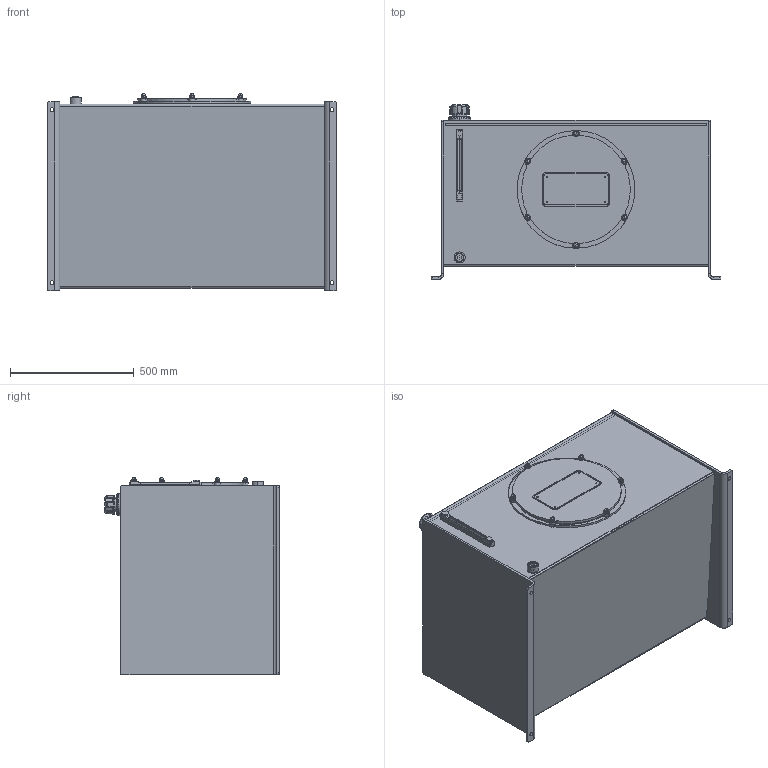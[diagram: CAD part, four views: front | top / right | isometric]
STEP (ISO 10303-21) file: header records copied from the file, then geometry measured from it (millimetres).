
FILE_DESCRIPTION (( 'STEP AP214' ), '1' );
FILE_NAME ('RDIN100-CFA.STEP', '2021-10-18T13:59:34', ( 'Windows User' ), ( '' ), 'SwSTEP 2.0', 'SolidWorks 2020', '' );
FILE_SCHEMA (( 'AUTOMOTIVE_DESIGN' ));
Length unit declared in the file: inch
Products named in the file (21): RDIN100-CFA; RDIN100-CFA-BODY_RJIC020-BODY; FB-C-H_FB-H008W; RHJ-PLUG-016; FB-H008W; REC-M475C; 8162-010-2_4534K46; FB-S-W; RDIN100-CFA-LEND; FB-F008_FB-F-008; REC-M475K; NAC100-15; QSTSBUR00080008; RHJ-PLUG-200; PLLG-10T; RDIN100-CFA-TOP; S16; WFZM010; RDIN100-CFA-REND; BHS8100-15350; Weld Riser
Assembly tree (36 placements, depth 3):
  RDIN100-CFA
    RDIN100-CFA-BODY_RJIC020-BODY
    RDIN100-CFA-LEND
    RDIN100-CFA-REND
    RDIN100-CFA-TOP
    QSTSBUR00080008  x4
    Weld Riser
    S16
    BHS8100-15350  x6
    FB-H008W
      FB-F008_FB-F-008
      FB-S-W
      FB-C-H_FB-H008W
    REC-M475K
      REC-M475C
      NAC100-15  x6
      WFZM010  x6
    PLLG-10T
    8162-010-2_4534K46
  RHJ-PLUG-016
  RHJ-PLUG-200
Bounding box: 1168.4 x 704.47 x 795.44 mm (x, y, z)
Volume: 25300327 mm3; surface area: 8193393.2 mm2
Topology: 37 solids, 37 shells, 1228 faces, 2875 edges, 1707 vertices
Faces by surface type: cylinder 413, plane 383, cone 190, bspline 100, torus 94, sphere 48
Entity records: 34650 total; most frequent: CARTESIAN_POINT 9606, DIRECTION 5014, ORIENTED_EDGE 4602, EDGE_CURVE 2301, AXIS2_PLACEMENT_3D 2047, VERTEX_POINT 1383, CIRCLE 1121, EDGE_LOOP 1108
